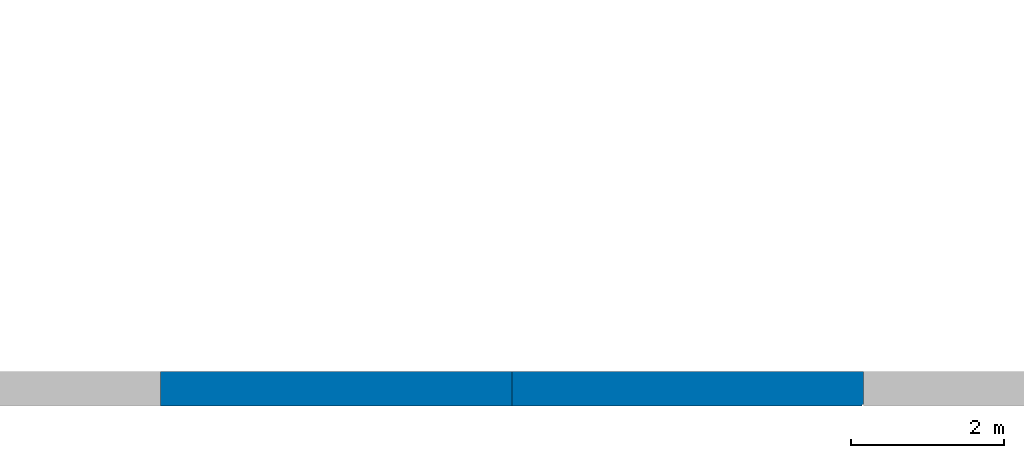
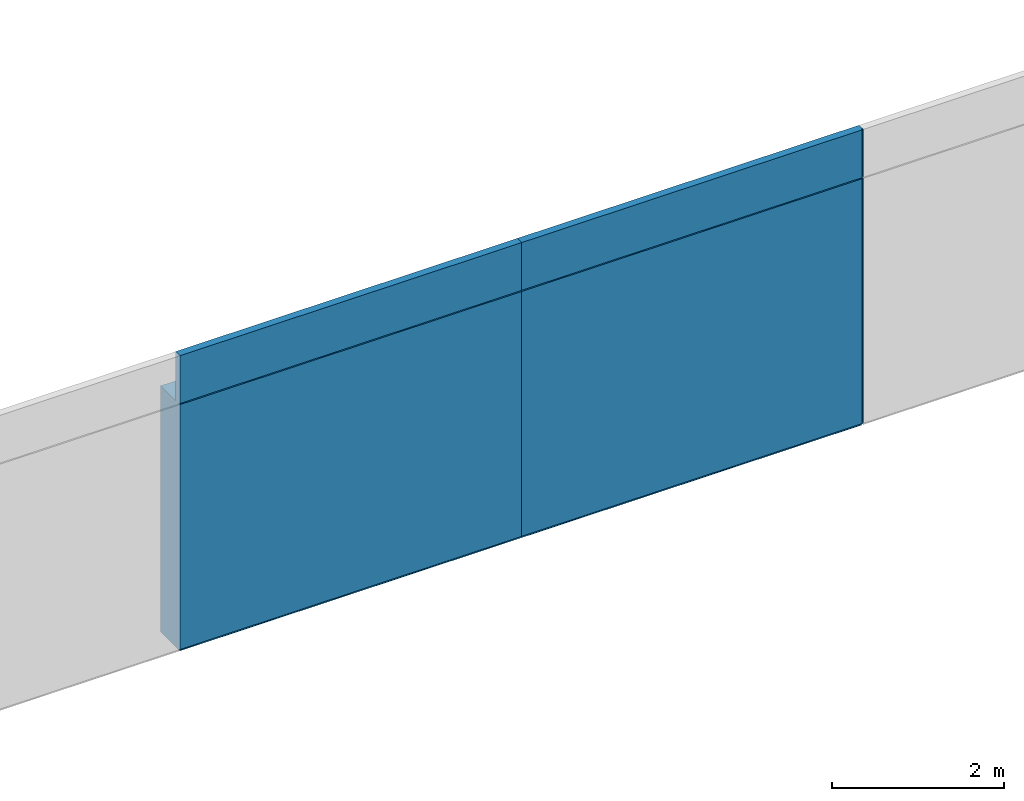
# One storey, part 15 of 33: 2 walls, 9 openings.
"""IFC2X3 building model written with IfcOpenShell, lengths in millimetres."""

from ifc_helpers import new_model, entity, si_unit, converted_unit, derived_unit, direction, frame, frame_2d, origin, origin_2d_with_axis, place, context, subcontext, project, spatial, polyline, rectangle, extrude, clip, bounded_halfspace, material, layer, layer_set, layer_usage, type_object, element, save


model = new_model("IFC2X3")

# Units and contexts
model_context = context("Model", 3, precision=0.01, world=origin(), true_north=direction((6.12303176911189e-17, 1.0)))
body_context = subcontext(model_context, "Body", "Model", "MODEL_VIEW")
ifc_project = project(units=[si_unit("LENGTHUNIT", "METRE", prefix="MILLI"), si_unit("AREAUNIT", "SQUARE_METRE"), si_unit("VOLUMEUNIT", "CUBIC_METRE"), converted_unit("PLANEANGLEUNIT", "DEGREE", entity("IfcRatioMeasure", 0.0174532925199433), si_unit("PLANEANGLEUNIT", "RADIAN"), dimensions=[0, 0, 0, 0, 0, 0, 0]), si_unit("MASSUNIT", "GRAM", prefix="KILO"), derived_unit("MASSDENSITYUNIT", [(si_unit("MASSUNIT", "GRAM", prefix="KILO"), 1), (si_unit("LENGTHUNIT", "METRE"), -3)]), si_unit("TIMEUNIT", "SECOND"), si_unit("FREQUENCYUNIT", "HERTZ"), si_unit("THERMODYNAMICTEMPERATUREUNIT", "DEGREE_CELSIUS"), derived_unit("THERMALTRANSMITTANCEUNIT", [(si_unit("MASSUNIT", "GRAM", prefix="KILO"), 1), (si_unit("THERMODYNAMICTEMPERATUREUNIT", "KELVIN"), -1), (si_unit("TIMEUNIT", "SECOND"), -3)]), derived_unit("VOLUMETRICFLOWRATEUNIT", [(si_unit("LENGTHUNIT", "METRE"), 3), (si_unit("TIMEUNIT", "SECOND"), -1)]), si_unit("ELECTRICCURRENTUNIT", "AMPERE"), si_unit("ELECTRICVOLTAGEUNIT", "VOLT"), si_unit("POWERUNIT", "WATT"), si_unit("FORCEUNIT", "NEWTON", prefix="KILO"), si_unit("ILLUMINANCEUNIT", "LUX"), si_unit("LUMINOUSFLUXUNIT", "LUMEN"), si_unit("LUMINOUSINTENSITYUNIT", "CANDELA"), derived_unit("USERDEFINED", [(si_unit("MASSUNIT", "GRAM", prefix="KILO"), -1), (si_unit("LENGTHUNIT", "METRE"), -2), (si_unit("TIMEUNIT", "SECOND"), 3), (si_unit("LUMINOUSFLUXUNIT", "LUMEN"), 1)]), derived_unit("LINEARVELOCITYUNIT", [(si_unit("LENGTHUNIT", "METRE"), 1), (si_unit("TIMEUNIT", "SECOND"), -1)]), si_unit("PRESSUREUNIT", "PASCAL"), derived_unit("USERDEFINED", [(si_unit("LENGTHUNIT", "METRE"), -2), (si_unit("MASSUNIT", "GRAM", prefix="KILO"), 1), (si_unit("TIMEUNIT", "SECOND"), -2)])], contexts=[model_context])

# Site, building, storey
site_placement = place(None, origin())
site = spatial("IfcSite", under=ifc_project, at=site_placement, Name="Default", CompositionType="ELEMENT")
building_placement = place(site_placement, origin())
building = spatial("IfcBuilding", under=site, at=building_placement, CompositionType="ELEMENT")
storey_placement = place(building_placement, frame((0.0, 0.0, 4000.0)))
storey = spatial("IfcBuildingStorey", under=building, at=storey_placement, Name="2. KORRUS", CompositionType="ELEMENT", Elevation=4000.0)

# Wall, openings
ifc_material_1 = material(Name="RECKLI 1 173 THUR by Polantis 2016-toon3")
ifc_layer_1 = layer(ifc_material_1, 100.0)
ifc_material_2 = material(Name="Soojusisolatsioon EPS")
ifc_layer_2 = layer(ifc_material_2, 200.0)
ifc_material_3 = material(Name="r/b")
ifc_layer_3 = layer(ifc_material_3, 150.0)
ifc_layer_set_1 = layer_set([ifc_layer_1, ifc_layer_2, ifc_layer_3], Name="Basic Wall:VS-1_toon-b")
ifc_layer_usage_1 = layer_usage(ifc_layer_set_1, "AXIS2", "NEGATIVE", 225.0)
wall_type_1 = type_object("IfcWallType", Name="Basic Wall:VS-1_toon-b", PredefinedType="STANDARD", material=ifc_layer_set_1)
wall_1_placement = place(storey_placement, frame((24710.0, -225.0, 500.0), z_axis=(0.0, 0.0, 1.0), x_axis=(-1.0, 0.0, 0.0)))
wall_1 = element("IfcWallStandardCase", 1, at=wall_1_placement, inside=storey, type_object=wall_type_1, material=ifc_layer_usage_1, Name="Basic Wall:VS-1_toon-b", ObjectType="Basic Wall:VS-1_toon-b", context=body_context, shape_type="Clipping", body=[
    clip(extrude(rectangle(XDim=4600.0, YDim=450.0, at=frame_2d((2300.0, -1.4210854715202e-14), x_axis=(-1.0, 0.0))), origin(), (0.0, 0.0, 1.0), 4200.0), bounded_halfspace(frame((0.0, -225.0, 3500.0), z_axis=(0.0, 0.0, 1.0), x_axis=(0.0, 1.0, 0.0)), False, frame((0.0, -225.0, 3500.0)), polyline([(0.0, 0.0), (4600.0, 0.0), (4600.0, 350.0), (0.0, 350.0), (0.0, 0.0)]))),
])
opening_1_placement = place(wall_1_placement, origin())
element("IfcOpeningElement", 2, at=opening_1_placement, cuts=wall_1, Name="Basic Wall:VS-1_toon-b", ObjectType="Opening", context=body_context, shape_type="SweptSolid", body=[
    extrude(rectangle(XDim=4499.99999999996, YDim=3600.0, at=frame_2d((2.1600499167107e-12, 0.0), x_axis=(0.0, 1.0))), frame((2310.0, -1749.0, -2250.0), z_axis=(0.0, 1.0, 0.0), x_axis=(-1.0, 0.0, 0.0)), (0.0, 0.0, 1.0), 3048.0),
])
opening_2_placement = place(wall_1_placement, origin())
element("IfcOpeningElement", 3, at=opening_2_placement, cuts=wall_1, Name="Basic Wall:VS-1_toon-b", ObjectType="Recess", context=body_context, shape_type="SweptSolid", body=[
    extrude(rectangle(XDim=4200.0, YDim=16.0000000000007, at=frame_2d((0.0, -2.16626716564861e-12), x_axis=(1.0, 0.0))), frame((4607.9683370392, 205.0, 2100.0), z_axis=(0.0, 1.0, 0.0), x_axis=(0.0, 0.0, 1.0)), (0.0, 0.0, 1.0), 20.0000000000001),
])
opening_3_placement = place(wall_1_placement, origin())
element("IfcOpeningElement", 4, at=opening_3_placement, cuts=wall_1, Name="Basic Wall:VS-1_toon-b", ObjectType="Recess", context=body_context, shape_type="SweptSolid", body=[
    extrude(rectangle(XDim=16.0000000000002, YDim=4790.0, at=frame_2d((0.0, 2.70450328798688e-13), x_axis=(0.0, 1.0))), frame((-7695.0, 205.0, 12.0), z_axis=(0.0, 1.0, 0.0), x_axis=(1.0, 0.0, 0.0)), (0.0, 0.0, 1.0), 20.0000000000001),
    extrude(rectangle(XDim=16.0000000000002, YDim=4110.0, at=frame_2d((-1.13686837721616e-12, 2.70450328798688e-13), x_axis=(0.0, 1.0))), frame((11255.0, 205.0, 12.0), z_axis=(0.0, 1.0, 0.0), x_axis=(1.0, 0.0, 0.0)), (0.0, 0.0, 1.0), 19.9999999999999),
    extrude(rectangle(XDim=16.0000000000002, YDim=4600.0, at=frame_2d((1.13686837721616e-12, 2.70450328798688e-13), x_axis=(0.0, 1.0))), frame((6900.0, 205.0, 12.0), z_axis=(0.0, 1.0, 0.0), x_axis=(1.0, 0.0, 0.0)), (0.0, 0.0, 1.0), 20.0),
    extrude(rectangle(XDim=16.0000000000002, YDim=4600.0, at=frame_2d((2.27373675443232e-12, 2.70450328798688e-13), x_axis=(0.0, 1.0))), frame((2300.0, 205.0, 12.0), z_axis=(0.0, 1.0, 0.0), x_axis=(1.0, 0.0, 0.0)), (0.0, 0.0, 1.0), 20.0),
    extrude(rectangle(XDim=16.0000000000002, YDim=5299.99999999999, at=frame_2d((-2.04636307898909e-12, 2.70450328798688e-13), x_axis=(0.0, 1.0))), frame((-2650.0, 205.0, 12.0), z_axis=(0.0, 1.0, 0.0), x_axis=(1.0, 0.0, 0.0)), (0.0, 0.0, 1.0), 20.0),
])
opening_4_placement = place(wall_1_placement, origin())
element("IfcOpeningElement", 5, at=opening_4_placement, cuts=wall_1, Name="Basic Wall:VS-1_toon-b", ObjectType="Opening", context=body_context, shape_type="SweptSolid", body=[
    extrude(rectangle(XDim=15.9999999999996, YDim=7590.0, at=frame_2d((0.0, 5.40900657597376e-13), x_axis=(0.0, 1.0))), frame((17105.0, 205.0, 3512.0), z_axis=(0.0, 1.0, 0.0), x_axis=(1.0, 0.0, 0.0)), (0.0, 0.0, 1.0), 20.0),
    extrude(rectangle(XDim=15.9999999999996, YDim=20.0, at=frame_2d((-3.37507799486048e-14, 5.40900657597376e-13), x_axis=(0.0, 1.0))), frame((25150.0, -28175.0, 3512.0), z_axis=(0.0, 1.0, 0.0), x_axis=(1.0, 0.0, 0.0)), (0.0, 0.0, 1.0), 4660.0),
    extrude(rectangle(XDim=15.9999999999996, YDim=5230.3475962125, at=frame_2d((1.13686837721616e-12, -5.40900657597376e-13), x_axis=(0.0, 1.0))), frame((12444.8262018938, -22175.0517807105, 3512.0), z_axis=(0.0, 1.0, 0.0), x_axis=(-1.0, 0.0, 0.0)), (0.0, 0.0, 1.0), 19.9999999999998),
    extrude(rectangle(XDim=15.9999999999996, YDim=4360.0, at=frame_2d((0.0, -5.40900657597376e-13), x_axis=(0.0, 1.0))), frame((22980.0, -28275.0, 3512.0), z_axis=(0.0, 1.0, 0.0), x_axis=(-1.0, 0.0, 0.0)), (0.0, 0.0, 1.0), 19.9999999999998),
    extrude(rectangle(XDim=15.9999999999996, YDim=5050.0, at=frame_2d((2.27373675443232e-12, 0.0), x_axis=(0.0, 1.0))), frame((-12615.0, 205.0, 3512.0), z_axis=(0.0, 1.0, 0.0), x_axis=(1.0, 0.0, 0.0)), (0.0, 0.0, 1.0), 20.0),
    extrude(rectangle(XDim=15.9999999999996, YDim=5979.89642978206, at=frame_2d((-2.27373675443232e-12, 0.0), x_axis=(0.0, 1.0))), frame((-12250.0517851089, -22175.0517807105, 3512.0), z_axis=(0.0, 1.0, 0.0), x_axis=(-1.0, 0.0, 0.0)), (0.0, 0.0, 1.0), 19.9999999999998),
    extrude(rectangle(XDim=15.9999999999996, YDim=5306.88742148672, at=frame_2d((2.04636307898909e-12, -5.40900657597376e-13), x_axis=(0.0, 1.0))), frame((-6606.65985947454, -22175.0517807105, 3512.0), z_axis=(0.0, 1.0, 0.0), x_axis=(-1.0, 0.0, 0.0)), (0.0, 0.0, 1.0), 19.9999999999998),
    extrude(rectangle(XDim=15.9999999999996, YDim=19.9999999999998, at=frame_2d((-5.40900657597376e-13, 0.0), x_axis=(1.0, 0.0))), frame((15070.0, -28175.0, 3512.0), z_axis=(0.0, 1.0, 0.0), x_axis=(0.0, 0.0, -1.0)), (0.0, 0.0, 1.0), 6099.94821928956),
    extrude(rectangle(XDim=15.9999999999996, YDim=4160.00000000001, at=frame_2d((0.0, 5.40900657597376e-13), x_axis=(0.0, 1.0))), frame((22980.0, 205.0, 3512.0), z_axis=(0.0, 1.0, 0.0), x_axis=(1.0, 0.0, 0.0)), (0.0, 0.0, 1.0), 20.0),
    extrude(rectangle(XDim=15.9999999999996, YDim=20.0000000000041, at=frame_2d((5.40900657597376e-13, -4.33164615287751e-12), x_axis=(1.0, 0.0))), frame((-15230.0, -4640.0, 3512.0), z_axis=(0.0, 1.0, 0.0), x_axis=(0.0, 0.0, -1.0)), (0.0, 0.0, 1.0), 4865.0),
    extrude(rectangle(XDim=15.9999999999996, YDim=20.0000000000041, at=frame_2d((5.40900657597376e-13, -4.33164615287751e-12), x_axis=(1.0, 0.0))), frame((-15230.0, -8868.33000000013, 3512.0), z_axis=(0.0, 1.0, 0.0), x_axis=(0.0, 0.0, -1.0)), (0.0, 0.0, 1.0), 4228.33000000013),
    extrude(rectangle(XDim=15.9999999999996, YDim=20.0000000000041, at=frame_2d((5.40900657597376e-13, -4.33164615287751e-12), x_axis=(1.0, 0.0))), frame((-15230.0, -13105.0, 3512.0), z_axis=(0.0, 1.0, 0.0), x_axis=(0.0, 0.0, -1.0)), (0.0, 0.0, 1.0), 4236.66999997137),
    extrude(rectangle(XDim=15.9999999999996, YDim=20.0000000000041, at=frame_2d((5.40900657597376e-13, -4.33164615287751e-12), x_axis=(1.0, 0.0))), frame((-15230.0, -16015.0, 3512.0), z_axis=(0.0, 1.0, 0.0), x_axis=(0.0, 0.0, -1.0)), (0.0, 0.0, 1.0), 2910.00000002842),
    extrude(rectangle(XDim=15.9999999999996, YDim=20.0000000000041, at=frame_2d((-5.40900657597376e-13, 4.33164615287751e-12), x_axis=(1.0, 0.0))), frame((-15230.0, -22075.0517807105, 3512.0), z_axis=(0.0, 1.0, 0.0), x_axis=(0.0, 0.0, -1.0)), (0.0, 0.0, 1.0), 6060.05178071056),
    extrude(rectangle(XDim=15.9999999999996, YDim=3831.64710898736, at=frame_2d((2.1600499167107e-12, -5.40900657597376e-13), x_axis=(0.0, 1.0))), frame((4540.82355449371, -22175.0517807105, 3512.0), z_axis=(0.0, 1.0, 0.0), x_axis=(-1.0, 0.0, 0.0)), (0.0, 0.0, 1.0), 19.9999999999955),
    extrude(rectangle(XDim=15.9999999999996, YDim=3373.00529480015, at=frame_2d((0.0, -5.40900657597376e-13), x_axis=(0.0, 1.0))), frame((8143.14975638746, -22175.0517807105, 3512.0), z_axis=(0.0, 1.0, 0.0), x_axis=(-1.0, 0.0, 0.0)), (0.0, 0.0, 1.0), 19.9999999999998),
    extrude(rectangle(XDim=15.9999999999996, YDim=5739.99999999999, at=frame_2d((-2.27373675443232e-13, -5.40900657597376e-13), x_axis=(0.0, 1.0))), frame((17930.0, -28275.0, 3512.0), z_axis=(0.0, 1.0, 0.0), x_axis=(-1.0, 0.0, 0.0)), (0.0, 0.0, 1.0), 19.9999999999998),
    extrude(rectangle(XDim=15.9999999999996, YDim=20.0, at=frame_2d((3.37507799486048e-14, 5.40900657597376e-13), x_axis=(0.0, 1.0))), frame((25150.0, -23515.0, 3512.0), z_axis=(0.0, 1.0, 0.0), x_axis=(1.0, 0.0, 0.0)), (0.0, 0.0, 1.0), 6849.99930276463),
    extrude(rectangle(XDim=15.9999999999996, YDim=20.0, at=frame_2d((-3.37507799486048e-14, 5.40900657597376e-13), x_axis=(0.0, 1.0))), frame((25150.0, -16665.0006972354, 3512.0), z_axis=(0.0, 1.0, 0.0), x_axis=(1.0, 0.0, 0.0)), (0.0, 0.0, 1.0), 3430.00069726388),
    extrude(rectangle(XDim=15.9999999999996, YDim=6578.21614873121, at=frame_2d((0.0, -5.40900657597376e-13), x_axis=(0.0, 1.0))), frame((-664.108074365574, -22175.0517807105, 3512.0), z_axis=(0.0, 1.0, 0.0), x_axis=(-1.0, 0.0, 0.0)), (0.0, 0.0, 1.0), 19.9999999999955),
    extrude(rectangle(XDim=15.9999999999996, YDim=4110.00000000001, at=frame_2d((0.0, 5.40900657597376e-13), x_axis=(0.0, 1.0))), frame((11255.0, 205.0, 3512.0), z_axis=(0.0, 1.0, 0.0), x_axis=(1.0, 0.0, 0.0)), (0.0, 0.0, 1.0), 19.9999999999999),
    extrude(rectangle(XDim=15.9999999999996, YDim=4600.0, at=frame_2d((1.13686837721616e-12, 5.40900657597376e-13), x_axis=(0.0, 1.0))), frame((6900.0, 205.0, 3512.0), z_axis=(0.0, 1.0, 0.0), x_axis=(1.0, 0.0, 0.0)), (0.0, 0.0, 1.0), 20.0),
    extrude(rectangle(XDim=15.9999999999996, YDim=4600.0, at=frame_2d((2.27373675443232e-12, 5.40900657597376e-13), x_axis=(0.0, 1.0))), frame((2300.0, 205.0, 3512.0), z_axis=(0.0, 1.0, 0.0), x_axis=(1.0, 0.0, 0.0)), (0.0, 0.0, 1.0), 20.0),
    extrude(rectangle(XDim=15.9999999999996, YDim=5299.99999999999, at=frame_2d((-2.04636307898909e-12, 5.40900657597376e-13), x_axis=(0.0, 1.0))), frame((-2650.0, 205.0, 3512.0), z_axis=(0.0, 1.0, 0.0), x_axis=(1.0, 0.0, 0.0)), (0.0, 0.0, 1.0), 20.0),
    extrude(rectangle(XDim=15.9999999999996, YDim=4790.0, at=frame_2d((0.0, 5.40900657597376e-13), x_axis=(0.0, 1.0))), frame((-7695.0, 205.0, 3512.0), z_axis=(0.0, 1.0, 0.0), x_axis=(1.0, 0.0, 0.0)), (0.0, 0.0, 1.0), 20.0000000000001),
    extrude(rectangle(XDim=15.9999999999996, YDim=20.0, at=frame_2d((3.37507799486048e-14, 5.40900657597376e-13), x_axis=(0.0, 1.0))), frame((25150.0, -13235.0, 3512.0), z_axis=(0.0, 1.0, 0.0), x_axis=(1.0, 0.0, 0.0)), (0.0, 0.0, 1.0), 4724.85920481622),
    extrude(rectangle(XDim=15.9999999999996, YDim=20.0, at=frame_2d((-3.37507799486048e-14, 5.40900657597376e-13), x_axis=(0.0, 1.0))), frame((25150.0, -8510.1407951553, 3512.0), z_axis=(0.0, 1.0, 0.0), x_axis=(1.0, 0.0, 0.0)), (0.0, 0.0, 1.0), 8735.1407951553),
])
opening_5_placement = place(wall_1_placement, origin())
element("IfcOpeningElement", 6, at=opening_5_placement, cuts=wall_1, Name="Basic Wall:VS-1_toon-b", ObjectType="Recess", context=body_context, shape_type="SweptSolid", body=[
    extrude(rectangle(XDim=4200.0, YDim=16.0000000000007, at=frame_2d((0.0, -2.16626716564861e-12), x_axis=(1.0, 0.0))), frame((9.96853659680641, 205.0, 2100.0), z_axis=(0.0, 1.0, 0.0), x_axis=(0.0, 0.0, 1.0)), (0.0, 0.0, 1.0), 20.0000000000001),
])

ifc_material_4 = material(Name="RECKLI 1 173 THUR by Polantis 2016-toon2")
ifc_layer_4 = layer(ifc_material_4, 100.0)
ifc_layer_5 = layer(ifc_material_2, 200.0)
ifc_layer_6 = layer(ifc_material_3, 150.0)
ifc_layer_set_2 = layer_set([ifc_layer_4, ifc_layer_5, ifc_layer_6], Name="Basic Wall:VS-1_toon-c")
ifc_layer_usage_2 = layer_usage(ifc_layer_set_2, "AXIS2", "NEGATIVE", 225.0)
wall_type_2 = type_object("IfcWallType", Name="Basic Wall:VS-1_toon-c", PredefinedType="STANDARD", material=ifc_layer_set_2)
wall_2_placement = place(storey_placement, frame((20110.0, -225.0, 500.0), z_axis=(0.0, 0.0, 1.0), x_axis=(-1.0, 0.0, 0.0)))
wall_2 = element("IfcWallStandardCase", 7, at=wall_2_placement, inside=storey, type_object=wall_type_2, material=ifc_layer_usage_2, Name="Basic Wall:VS-1_toon-c", ObjectType="Basic Wall:VS-1_toon-c", context=body_context, shape_type="Clipping", body=[
    clip(extrude(rectangle(XDim=4600.0, YDim=450.0, at=frame_2d((2300.0, 1.4210854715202e-14), x_axis=(-1.0, 0.0))), origin(), (0.0, 0.0, 1.0), 4200.0), bounded_halfspace(frame((0.0, -225.0, 3500.0), z_axis=(0.0, 0.0, 1.0), x_axis=(0.0, 1.0, 0.0)), False, frame((0.0, -225.0, 3500.0)), polyline([(0.0, 0.0), (4600.0, 0.0), (4600.0, 350.0), (0.0, 350.0), (0.0, 0.0)]))),
])
opening_6_placement = place(wall_2_placement, origin())
element("IfcOpeningElement", 8, at=opening_6_placement, cuts=wall_2, Name="Basic Wall:VS-1_toon-c", ObjectType="Opening", context=body_context, shape_type="SweptSolid", body=[
    extrude(rectangle(XDim=4499.99999999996, YDim=3600.0, at=frame_2d((0.0, 0.0), x_axis=(0.0, 1.0))), frame((2310.0, -1749.0, -2250.0), z_axis=(0.0, 1.0, 0.0), x_axis=(-1.0, 0.0, 0.0)), (0.0, 0.0, 1.0), 3048.0),
])
opening_7_placement = place(wall_2_placement, origin())
element("IfcOpeningElement", 9, at=opening_7_placement, cuts=wall_2, Name="Basic Wall:VS-1_toon-c", ObjectType="Recess", context=body_context, shape_type="SweptSolid", body=[
    extrude(rectangle(XDim=4200.0, YDim=16.0000000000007, at=origin_2d_with_axis()), frame((4607.9683370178, 205.0, 2100.0), z_axis=(0.0, 1.0, 0.0), x_axis=(0.0, 0.0, 1.0)), (0.0, 0.0, 1.0), 20.0000000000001),
])
opening_8_placement = place(wall_2_placement, origin())
element("IfcOpeningElement", 10, at=opening_8_placement, cuts=wall_2, Name="Basic Wall:VS-1_toon-c", ObjectType="Recess", context=body_context, shape_type="SweptSolid", body=[
    extrude(rectangle(XDim=16.0000000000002, YDim=4790.0, at=frame_2d((0.0, 2.70450328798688e-13), x_axis=(0.0, 1.0))), frame((-12295.0, 205.0, 12.0), z_axis=(0.0, 1.0, 0.0), x_axis=(1.0, 0.0, 0.0)), (0.0, 0.0, 1.0), 20.0000000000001),
    extrude(rectangle(XDim=16.0000000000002, YDim=4110.0, at=frame_2d((-1.13686837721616e-12, 2.70450328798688e-13), x_axis=(0.0, 1.0))), frame((6655.0, 205.0, 12.0), z_axis=(0.0, 1.0, 0.0), x_axis=(1.0, 0.0, 0.0)), (0.0, 0.0, 1.0), 19.9999999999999),
    extrude(rectangle(XDim=16.0000000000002, YDim=4600.0, at=frame_2d((1.13686837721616e-12, 2.70450328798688e-13), x_axis=(0.0, 1.0))), frame((2300.0, 205.0, 12.0), z_axis=(0.0, 1.0, 0.0), x_axis=(1.0, 0.0, 0.0)), (0.0, 0.0, 1.0), 20.0),
    extrude(rectangle(XDim=16.0000000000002, YDim=4600.0, at=frame_2d((2.27373675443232e-12, 2.70450328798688e-13), x_axis=(0.0, 1.0))), frame((-2300.0, 205.0, 12.0), z_axis=(0.0, 1.0, 0.0), x_axis=(1.0, 0.0, 0.0)), (0.0, 0.0, 1.0), 20.0),
    extrude(rectangle(XDim=16.0000000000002, YDim=5299.99999999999, at=frame_2d((-2.04636307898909e-12, 2.70450328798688e-13), x_axis=(0.0, 1.0))), frame((-7250.0, 205.0, 12.0), z_axis=(0.0, 1.0, 0.0), x_axis=(1.0, 0.0, 0.0)), (0.0, 0.0, 1.0), 20.0),
])
opening_9_placement = place(wall_2_placement, origin())
element("IfcOpeningElement", 11, at=opening_9_placement, cuts=wall_2, Name="Basic Wall:VS-1_toon-c", ObjectType="Opening", context=body_context, shape_type="SweptSolid", body=[
    extrude(rectangle(XDim=15.9999999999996, YDim=7590.0, at=frame_2d((0.0, 5.40900657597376e-13), x_axis=(0.0, 1.0))), frame((12505.0, 205.0, 3512.0), z_axis=(0.0, 1.0, 0.0), x_axis=(1.0, 0.0, 0.0)), (0.0, 0.0, 1.0), 20.0),
    extrude(rectangle(XDim=15.9999999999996, YDim=20.0, at=frame_2d((-3.37507799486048e-14, 5.40900657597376e-13), x_axis=(0.0, 1.0))), frame((20550.0, -28175.0, 3512.0), z_axis=(0.0, 1.0, 0.0), x_axis=(1.0, 0.0, 0.0)), (0.0, 0.0, 1.0), 4660.0),
    extrude(rectangle(XDim=15.9999999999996, YDim=5230.3475962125, at=frame_2d((1.13686837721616e-12, -5.40900657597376e-13), x_axis=(0.0, 1.0))), frame((7844.82620189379, -22175.0517807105, 3512.0), z_axis=(0.0, 1.0, 0.0), x_axis=(-1.0, 0.0, 0.0)), (0.0, 0.0, 1.0), 19.9999999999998),
    extrude(rectangle(XDim=15.9999999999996, YDim=4360.0, at=frame_2d((0.0, -5.40900657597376e-13), x_axis=(0.0, 1.0))), frame((18380.0, -28275.0, 3512.0), z_axis=(0.0, 1.0, 0.0), x_axis=(-1.0, 0.0, 0.0)), (0.0, 0.0, 1.0), 19.9999999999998),
    extrude(rectangle(XDim=15.9999999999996, YDim=5050.0, at=frame_2d((2.27373675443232e-12, 0.0), x_axis=(0.0, 1.0))), frame((-17215.0, 205.0, 3512.0), z_axis=(0.0, 1.0, 0.0), x_axis=(1.0, 0.0, 0.0)), (0.0, 0.0, 1.0), 20.0),
    extrude(rectangle(XDim=15.9999999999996, YDim=5979.89642978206, at=frame_2d((-2.27373675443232e-12, 0.0), x_axis=(0.0, 1.0))), frame((-16850.0517851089, -22175.0517807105, 3512.0), z_axis=(0.0, 1.0, 0.0), x_axis=(-1.0, 0.0, 0.0)), (0.0, 0.0, 1.0), 19.9999999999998),
    extrude(rectangle(XDim=15.9999999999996, YDim=5306.88742148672, at=frame_2d((2.04636307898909e-12, -5.40900657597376e-13), x_axis=(0.0, 1.0))), frame((-11206.6598594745, -22175.0517807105, 3512.0), z_axis=(0.0, 1.0, 0.0), x_axis=(-1.0, 0.0, 0.0)), (0.0, 0.0, 1.0), 19.9999999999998),
    extrude(rectangle(XDim=15.9999999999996, YDim=19.9999999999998, at=frame_2d((-5.40900657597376e-13, 0.0), x_axis=(1.0, 0.0))), frame((10470.0, -28175.0, 3512.0), z_axis=(0.0, 1.0, 0.0), x_axis=(0.0, 0.0, -1.0)), (0.0, 0.0, 1.0), 6099.94821928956),
    extrude(rectangle(XDim=15.9999999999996, YDim=4160.00000000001, at=frame_2d((0.0, 5.40900657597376e-13), x_axis=(0.0, 1.0))), frame((18380.0, 205.0, 3512.0), z_axis=(0.0, 1.0, 0.0), x_axis=(1.0, 0.0, 0.0)), (0.0, 0.0, 1.0), 20.0),
    extrude(rectangle(XDim=15.9999999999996, YDim=20.0000000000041, at=frame_2d((5.40900657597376e-13, -4.33164615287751e-12), x_axis=(1.0, 0.0))), frame((-19830.0, -4640.0, 3512.0), z_axis=(0.0, 1.0, 0.0), x_axis=(0.0, 0.0, -1.0)), (0.0, 0.0, 1.0), 4865.0),
    extrude(rectangle(XDim=15.9999999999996, YDim=20.0000000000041, at=frame_2d((5.40900657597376e-13, -4.33164615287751e-12), x_axis=(1.0, 0.0))), frame((-19830.0, -8868.33000000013, 3512.0), z_axis=(0.0, 1.0, 0.0), x_axis=(0.0, 0.0, -1.0)), (0.0, 0.0, 1.0), 4228.33000000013),
    extrude(rectangle(XDim=15.9999999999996, YDim=20.0000000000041, at=frame_2d((5.40900657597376e-13, -4.33164615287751e-12), x_axis=(1.0, 0.0))), frame((-19830.0, -13105.0, 3512.0), z_axis=(0.0, 1.0, 0.0), x_axis=(0.0, 0.0, -1.0)), (0.0, 0.0, 1.0), 4236.66999997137),
    extrude(rectangle(XDim=15.9999999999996, YDim=20.0000000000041, at=frame_2d((5.40900657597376e-13, -4.33164615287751e-12), x_axis=(1.0, 0.0))), frame((-19830.0, -16015.0, 3512.0), z_axis=(0.0, 1.0, 0.0), x_axis=(0.0, 0.0, -1.0)), (0.0, 0.0, 1.0), 2910.00000002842),
    extrude(rectangle(XDim=15.9999999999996, YDim=20.0000000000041, at=frame_2d((-5.40900657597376e-13, 4.33164615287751e-12), x_axis=(1.0, 0.0))), frame((-19830.0, -22075.0517807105, 3512.0), z_axis=(0.0, 1.0, 0.0), x_axis=(0.0, 0.0, -1.0)), (0.0, 0.0, 1.0), 6060.05178071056),
    extrude(rectangle(XDim=15.9999999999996, YDim=3831.64710898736, at=frame_2d((2.1600499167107e-12, -5.40900657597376e-13), x_axis=(0.0, 1.0))), frame((-59.1764455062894, -22175.0517807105, 3512.0), z_axis=(0.0, 1.0, 0.0), x_axis=(-1.0, 0.0, 0.0)), (0.0, 0.0, 1.0), 19.9999999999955),
    extrude(rectangle(XDim=15.9999999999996, YDim=3373.00529480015, at=frame_2d((0.0, -5.40900657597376e-13), x_axis=(0.0, 1.0))), frame((3543.14975638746, -22175.0517807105, 3512.0), z_axis=(0.0, 1.0, 0.0), x_axis=(-1.0, 0.0, 0.0)), (0.0, 0.0, 1.0), 19.9999999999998),
    extrude(rectangle(XDim=15.9999999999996, YDim=5739.99999999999, at=frame_2d((-2.27373675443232e-13, -5.40900657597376e-13), x_axis=(0.0, 1.0))), frame((13330.0, -28275.0, 3512.0), z_axis=(0.0, 1.0, 0.0), x_axis=(-1.0, 0.0, 0.0)), (0.0, 0.0, 1.0), 19.9999999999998),
    extrude(rectangle(XDim=15.9999999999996, YDim=20.0, at=frame_2d((3.37507799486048e-14, 5.40900657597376e-13), x_axis=(0.0, 1.0))), frame((20550.0, -23515.0, 3512.0), z_axis=(0.0, 1.0, 0.0), x_axis=(1.0, 0.0, 0.0)), (0.0, 0.0, 1.0), 6849.99930276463),
    extrude(rectangle(XDim=15.9999999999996, YDim=20.0, at=frame_2d((-3.37507799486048e-14, 5.40900657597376e-13), x_axis=(0.0, 1.0))), frame((20550.0, -16665.0006972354, 3512.0), z_axis=(0.0, 1.0, 0.0), x_axis=(1.0, 0.0, 0.0)), (0.0, 0.0, 1.0), 3430.00069726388),
    extrude(rectangle(XDim=15.9999999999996, YDim=6578.21614873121, at=frame_2d((0.0, -5.40900657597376e-13), x_axis=(0.0, 1.0))), frame((-5264.10807436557, -22175.0517807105, 3512.0), z_axis=(0.0, 1.0, 0.0), x_axis=(-1.0, 0.0, 0.0)), (0.0, 0.0, 1.0), 19.9999999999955),
    extrude(rectangle(XDim=15.9999999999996, YDim=4110.00000000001, at=frame_2d((0.0, 5.40900657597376e-13), x_axis=(0.0, 1.0))), frame((6655.0, 205.0, 3512.0), z_axis=(0.0, 1.0, 0.0), x_axis=(1.0, 0.0, 0.0)), (0.0, 0.0, 1.0), 19.9999999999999),
    extrude(rectangle(XDim=15.9999999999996, YDim=4600.0, at=frame_2d((1.13686837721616e-12, 5.40900657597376e-13), x_axis=(0.0, 1.0))), frame((2300.0, 205.0, 3512.0), z_axis=(0.0, 1.0, 0.0), x_axis=(1.0, 0.0, 0.0)), (0.0, 0.0, 1.0), 20.0),
    extrude(rectangle(XDim=15.9999999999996, YDim=4600.0, at=frame_2d((2.27373675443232e-12, 5.40900657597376e-13), x_axis=(0.0, 1.0))), frame((-2300.0, 205.0, 3512.0), z_axis=(0.0, 1.0, 0.0), x_axis=(1.0, 0.0, 0.0)), (0.0, 0.0, 1.0), 20.0),
    extrude(rectangle(XDim=15.9999999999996, YDim=5299.99999999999, at=frame_2d((-2.04636307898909e-12, 5.40900657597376e-13), x_axis=(0.0, 1.0))), frame((-7250.0, 205.0, 3512.0), z_axis=(0.0, 1.0, 0.0), x_axis=(1.0, 0.0, 0.0)), (0.0, 0.0, 1.0), 20.0),
    extrude(rectangle(XDim=15.9999999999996, YDim=4790.0, at=frame_2d((0.0, 5.40900657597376e-13), x_axis=(0.0, 1.0))), frame((-12295.0, 205.0, 3512.0), z_axis=(0.0, 1.0, 0.0), x_axis=(1.0, 0.0, 0.0)), (0.0, 0.0, 1.0), 20.0000000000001),
    extrude(rectangle(XDim=15.9999999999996, YDim=20.0, at=frame_2d((3.37507799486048e-14, 5.40900657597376e-13), x_axis=(0.0, 1.0))), frame((20550.0, -13235.0, 3512.0), z_axis=(0.0, 1.0, 0.0), x_axis=(1.0, 0.0, 0.0)), (0.0, 0.0, 1.0), 4724.85920481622),
    extrude(rectangle(XDim=15.9999999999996, YDim=20.0, at=frame_2d((-3.37507799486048e-14, 5.40900657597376e-13), x_axis=(0.0, 1.0))), frame((20550.0, -8510.1407951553, 3512.0), z_axis=(0.0, 1.0, 0.0), x_axis=(1.0, 0.0, 0.0)), (0.0, 0.0, 1.0), 8735.1407951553),
])

save(model, "model.ifc")
